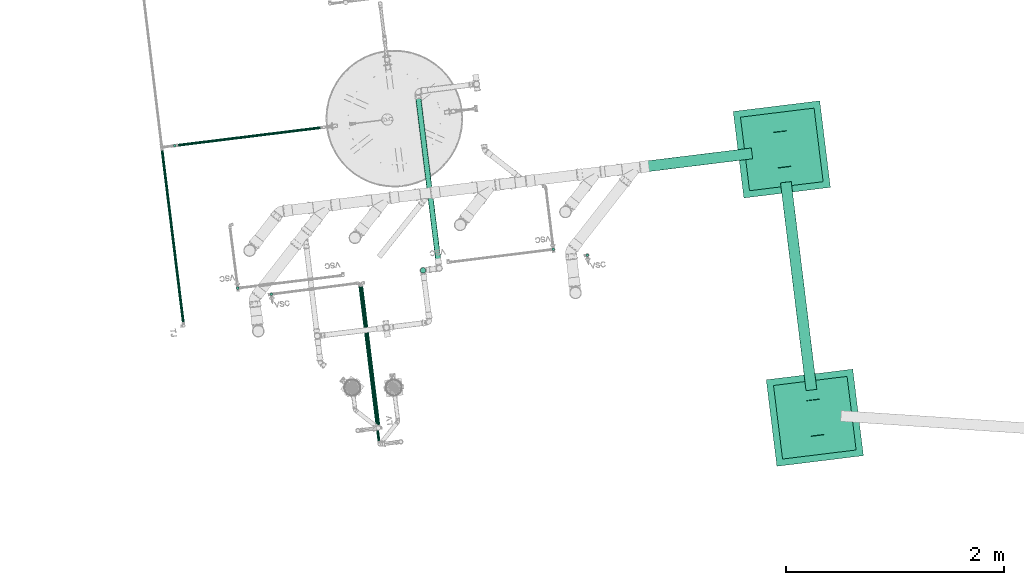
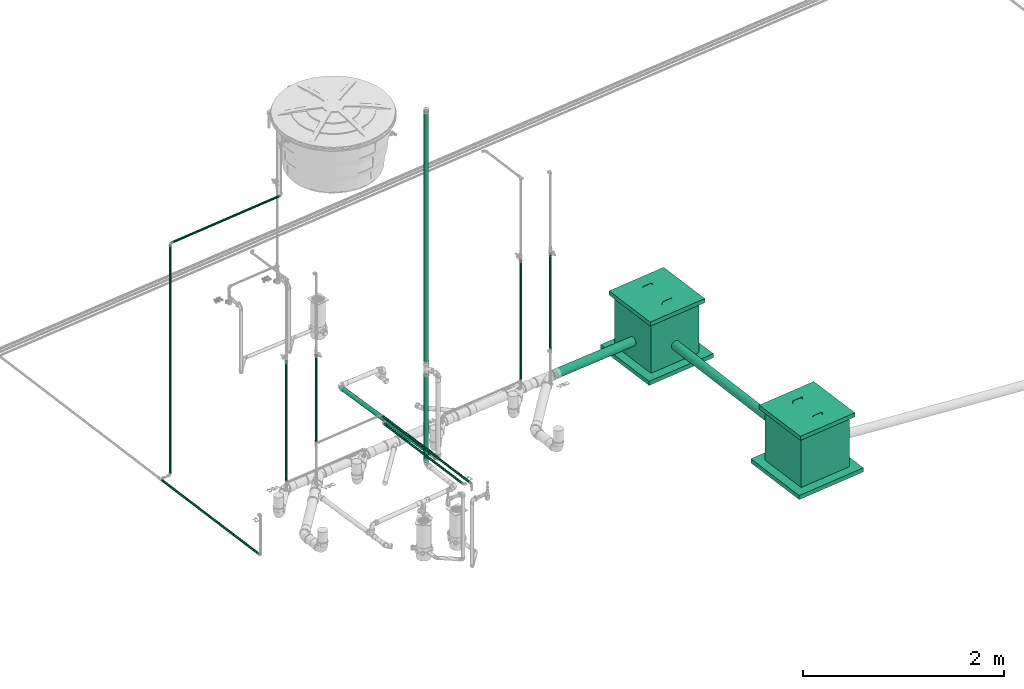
# One storey, part 3 of 97: 14 flow segments, 2 flow terminals.
"""IFC2X3 building model written with IfcOpenShell, lengths in centimetres."""

from ifc_helpers import new_model, entity, si_unit, converted_unit, derived_unit, direction, frame, frame_2d, origin, origin_2d_with_axis, place, context, subcontext, project, spatial, circle, extrude, faceted_brep, source, transform, mapped, material, material_list, type_object, type_shapes, element, save


model = new_model("IFC2X3")

# Units and contexts
model_context = context("Model", 3, precision=0.001, world=origin(), true_north=direction((6.12303176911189e-17, 1.0)))
body_context = subcontext(model_context, "Body", "Model", "MODEL_VIEW")
ifc_project = project(units=[si_unit("LENGTHUNIT", "METRE", prefix="CENTI"), si_unit("AREAUNIT", "SQUARE_METRE"), si_unit("VOLUMEUNIT", "CUBIC_METRE"), converted_unit("PLANEANGLEUNIT", "DEGREE", entity("IfcRatioMeasure", 0.0174532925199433), si_unit("PLANEANGLEUNIT", "RADIAN"), dimensions=[0, 0, 0, 0, 0, 0, 0]), si_unit("MASSUNIT", "GRAM", prefix="KILO"), derived_unit("MASSDENSITYUNIT", [(si_unit("MASSUNIT", "GRAM", prefix="KILO"), 1), (si_unit("LENGTHUNIT", "METRE"), -3)]), derived_unit("MOMENTOFINERTIAUNIT", [(si_unit("LENGTHUNIT", "METRE"), 4)]), si_unit("TIMEUNIT", "SECOND"), si_unit("FREQUENCYUNIT", "HERTZ"), si_unit("THERMODYNAMICTEMPERATUREUNIT", "DEGREE_CELSIUS"), derived_unit("THERMALTRANSMITTANCEUNIT", [(si_unit("MASSUNIT", "GRAM", prefix="KILO"), 1), (si_unit("THERMODYNAMICTEMPERATUREUNIT", "KELVIN"), -1), (si_unit("TIMEUNIT", "SECOND"), -3)]), derived_unit("VOLUMETRICFLOWRATEUNIT", [(si_unit("LENGTHUNIT", "METRE"), 3), (si_unit("TIMEUNIT", "SECOND"), -1)]), si_unit("ELECTRICCURRENTUNIT", "AMPERE"), si_unit("ELECTRICVOLTAGEUNIT", "VOLT"), si_unit("POWERUNIT", "WATT"), si_unit("FORCEUNIT", "NEWTON", prefix="KILO"), si_unit("ILLUMINANCEUNIT", "LUX"), si_unit("LUMINOUSFLUXUNIT", "LUMEN"), si_unit("LUMINOUSINTENSITYUNIT", "CANDELA"), derived_unit("USERDEFINED", [(si_unit("MASSUNIT", "GRAM", prefix="KILO"), -1), (si_unit("LENGTHUNIT", "METRE"), -2), (si_unit("TIMEUNIT", "SECOND"), 3), (si_unit("LUMINOUSFLUXUNIT", "LUMEN"), 1)]), derived_unit("LINEARVELOCITYUNIT", [(si_unit("LENGTHUNIT", "METRE"), 1), (si_unit("TIMEUNIT", "SECOND"), -1)]), si_unit("PRESSUREUNIT", "PASCAL"), derived_unit("USERDEFINED", [(si_unit("LENGTHUNIT", "METRE"), -2), (si_unit("MASSUNIT", "GRAM", prefix="KILO"), 1), (si_unit("TIMEUNIT", "SECOND"), -2)]), derived_unit("LINEARFORCEUNIT", [(si_unit("MASSUNIT", "GRAM", prefix="KILO"), 1), (si_unit("LENGTHUNIT", "METRE"), 1), (si_unit("TIMEUNIT", "SECOND"), -2), (si_unit("LENGTHUNIT", "METRE"), -1)]), derived_unit("PLANARFORCEUNIT", [(si_unit("MASSUNIT", "GRAM", prefix="KILO"), 1), (si_unit("LENGTHUNIT", "METRE"), 1), (si_unit("TIMEUNIT", "SECOND"), -2), (si_unit("LENGTHUNIT", "METRE"), -2)])], contexts=[model_context])

# Site, building, storey
site_placement = place(None, origin())
site = spatial("IfcSite", under=ifc_project, at=site_placement, Name="Default", CompositionType="ELEMENT")
building_placement = place(site_placement, origin())
building = spatial("IfcBuilding", under=site, at=building_placement, Name="HIDROSSANITÁRIO", CompositionType="ELEMENT")
storey_placement = place(building_placement, frame((0.0, 0.0, -260.0)))
storey = spatial("IfcBuildingStorey", under=building, at=storey_placement, Name="TÉRREO-HID", CompositionType="ELEMENT", Elevation=-260.0)

# Flow segments
pipe_segment_type_1 = type_object("IfcPipeSegmentType", Name="Tipos de tubos:Tubo Marrom - Água Fria - Soldável", PredefinedType="NOTDEFINED")
flow_segment_1_placement = place(storey_placement, origin())
element("IfcFlowSegment", 1, at=flow_segment_1_placement, inside=storey, type_object=pipe_segment_type_1, Name="Tipos de tubos:Tubo Marrom - Água Fria - Soldável", ObjectType="Tipos de tubos:Tubo Marrom - Água Fria - Soldável", context=body_context, shape_type="SweptSolid", body=[
    extrude(circle(Radius=1.25, at=frame_2d((-9.36630685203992e-43, 1.95846672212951e-13), x_axis=(1.0, 0.0))), frame((-1855.62086391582, 3014.8289807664, 261.388627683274), z_axis=(0.992511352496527, 0.122152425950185, 0.0), x_axis=(-0.122152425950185, 0.992511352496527, 0.0)), (0.0, 0.0, 1.0), 134.92),
])
flow_segment_2_placement = place(storey_placement, origin())
element("IfcFlowSegment", 2, at=flow_segment_2_placement, inside=storey, type_object=pipe_segment_type_1, Name="Tipos de tubos:Tubo Marrom - Água Fria - Soldável", ObjectType="Tipos de tubos:Tubo Marrom - Água Fria - Soldável", context=body_context, shape_type="SweptSolid", body=[
    extrude(circle(Radius=1.25, at=frame_2d((0.0, -4.33146851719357e-13), x_axis=(1.0, 0.0))), frame((-1857.14933139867, 3014.64086603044, -18.46)), (0.0, 0.0, 1.0), 278.308627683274),
])
flow_segment_3_placement = place(storey_placement, origin())
element("IfcFlowSegment", 3, at=flow_segment_3_placement, inside=storey, type_object=pipe_segment_type_1, Name="Tipos de tubos:Tubo Marrom - Água Fria - Soldável", ObjectType="Tipos de tubos:Tubo Marrom - Água Fria - Soldável", context=body_context, shape_type="SweptSolid", body=[
    extrude(circle(Radius=1.25, at=origin_2d_with_axis()), frame((-1509.71550067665, 2919.59112945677, 31.59), z_axis=(0.0, 0.0, 1.0), x_axis=(-1.0, 0.0, 0.0)), (0.0, 0.0, 1.0), 146.409999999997),
])
flow_segment_4_placement = place(storey_placement, origin())
element("IfcFlowSegment", 4, at=flow_segment_4_placement, inside=storey, type_object=pipe_segment_type_1, Name="Tipos de tubos:Tubo Marrom - Água Fria - Soldável", ObjectType="Tipos de tubos:Tubo Marrom - Água Fria - Soldável", context=body_context, shape_type="SweptSolid", body=[
    extrude(circle(Radius=1.25, at=origin_2d_with_axis()), frame((-1669.72265099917, 2757.23788957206, 60.0), z_axis=(-0.12219963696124, 0.992505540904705, 0.0), x_axis=(0.992505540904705, 0.12219963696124, 0.0)), (0.0, 0.0, 1.0), 130.78539637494),
])
flow_segment_5_placement = place(storey_placement, origin())
element("IfcFlowSegment", 5, at=flow_segment_5_placement, inside=storey, type_object=pipe_segment_type_1, Name="Tipos de tubos:Tubo Marrom - Água Fria - Soldável", ObjectType="Tipos de tubos:Tubo Marrom - Água Fria - Soldável", context=body_context, shape_type="SweptSolid", body=[
    extrude(circle(Radius=1.25, at=origin_2d_with_axis()), frame((-1768.33138926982, 2878.4050435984, 71.59)), (0.0, 0.0, 1.0), 106.41),
])
flow_segment_6_placement = place(storey_placement, origin())
element("IfcFlowSegment", 6, at=flow_segment_6_placement, inside=storey, type_object=pipe_segment_type_1, Name="Tipos de tubos:Tubo Marrom - Água Fria - Soldável", ObjectType="Tipos de tubos:Tubo Marrom - Água Fria - Soldável", context=body_context, shape_type="SweptSolid", body=[
    extrude(circle(Radius=1.25, at=origin_2d_with_axis()), frame((-1868.78252150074, 3011.60712502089, -20.0), z_axis=(0.1221524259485, -0.992511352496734, 0.0), x_axis=(-0.992511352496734, -0.1221524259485, 0.0)), (0.0, 0.0, 1.0), 161.870000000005),
])
flow_segment_7_placement = place(storey_placement, origin())
element("IfcFlowSegment", 7, at=flow_segment_7_placement, inside=storey, type_object=pipe_segment_type_1, Name="Tipos de tubos:Tubo Marrom - Água Fria - Soldável", ObjectType="Tipos de tubos:Tubo Marrom - Água Fria - Soldável", context=body_context, shape_type="SweptSolid", body=[
    extrude(circle(Radius=1.25, at=origin_2d_with_axis()), frame((-1478.52027011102, 2914.1004983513, 61.59)), (0.0, 0.0, 1.0), 116.41),
])
flow_segment_8_placement = place(storey_placement, origin())
element("IfcFlowSegment", 8, at=flow_segment_8_placement, inside=storey, type_object=pipe_segment_type_1, Name="Tipos de tubos:Tubo Marrom - Água Fria - Soldável", ObjectType="Tipos de tubos:Tubo Marrom - Água Fria - Soldável", context=body_context, shape_type="SweptSolid", body=[
    extrude(circle(Radius=1.25, at=frame_2d((0.0, 4.33146851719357e-13), x_axis=(1.0, 0.0))), frame((-1799.2260408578, 2883.95602249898, 31.59)), (0.0, 0.0, 1.0), 146.410000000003),
])
flow_segment_9_placement = place(storey_placement, origin())
element("IfcFlowSegment", 9, at=flow_segment_9_placement, inside=storey, type_object=pipe_segment_type_1, Name="Tipos de tubos:Tubo Marrom - Água Fria - Soldável", ObjectType="Tipos de tubos:Tubo Marrom - Água Fria - Soldável", context=body_context, shape_type="SweptSolid", body=[
    extrude(circle(Radius=1.25, at=frame_2d((-3.76395774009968e-42, 2.70716782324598e-13), x_axis=(1.0, 0.0))), frame((-1687.35206780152, 2887.0965775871, 70.0), z_axis=(0.122152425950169, -0.992511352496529, 0.0), x_axis=(0.992511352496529, 0.122152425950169, 0.0)), (0.0, 0.0, 1.0), 146.113682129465),
])
pipe_segment_type_2 = type_object("IfcPipeSegmentType", Name="Tipos de tubos:Tubo - Esgoto - Série Normal", PredefinedType="NOTDEFINED")
flow_segment_10_placement = place(storey_placement, origin())
element("IfcFlowSegment", 10, at=flow_segment_10_placement, inside=storey, type_object=pipe_segment_type_2, Name="Tipos de tubos:Tubo - Esgoto - Série Normal", ObjectType="Tipos de tubos:Tubo - Esgoto - Série Normal", context=body_context, shape_type="SweptSolid", body=[
    extrude(circle(Radius=2.5, at=origin_2d_with_axis()), frame((-1629.2281952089, 2900.22595257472, 105.78), z_axis=(0.0, 0.0, 1.0), x_axis=(-1.0, 0.0, 0.0)), (0.0, 0.0, 1.0), 306.147427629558),
])
flow_segment_11_placement = place(storey_placement, origin())
element("IfcFlowSegment", 11, at=flow_segment_11_placement, inside=storey, type_object=pipe_segment_type_2, Name="Tipos de tubos:Tubo - Esgoto - Série Normal", ObjectType="Tipos de tubos:Tubo - Esgoto - Série Normal", context=body_context, shape_type="SweptSolid", body=[
    extrude(circle(Radius=2.5, at=origin_2d_with_axis()), frame((-1614.71770808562, 2905.1229228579, -17.0622223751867), z_axis=(-0.122127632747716, 0.992309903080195, -0.0201468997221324), x_axis=(-0.992511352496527, -0.122152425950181, 0.0)), (0.0, 0.0, 1.0), 157.439610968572),
])
flow_segment_12_placement = place(storey_placement, origin())
element("IfcFlowSegment", 12, at=flow_segment_12_placement, inside=storey, type_object=pipe_segment_type_2, Name="Tipos de tubos:Tubo - Esgoto - Série Normal", ObjectType="Tipos de tubos:Tubo - Esgoto - Série Normal", context=body_context, shape_type="SweptSolid", body=[
    extrude(circle(Radius=5.0, at=origin_2d_with_axis()), frame((-1426.05433442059, 2995.3821976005, -36.5631975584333), z_axis=(0.992445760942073, 0.122276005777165, -0.00999949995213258), x_axis=(0.122282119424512, -0.992495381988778, 0.0)), (0.0, 0.0, 1.0), 99.2993765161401),
])
flow_segment_13_placement = place(storey_placement, origin())
element("IfcFlowSegment", 13, at=flow_segment_13_placement, inside=storey, type_object=pipe_segment_type_2, Name="Tipos de tubos:Tubo - Esgoto - Série Normal", ObjectType="Tipos de tubos:Tubo - Esgoto - Série Normal", context=body_context, shape_type="SweptSolid", body=[
    extrude(circle(Radius=2.5, at=origin_2d_with_axis()), frame((-1629.2281952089, 2900.22595257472, -13.9314800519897), z_axis=(0.0, 0.0, 1.0), x_axis=(-1.0, 0.0, 0.0)), (0.0, 0.0, 1.0), 107.65148005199),
])
flow_segment_14_placement = place(storey_placement, origin())
element("IfcFlowSegment", 14, at=flow_segment_14_placement, inside=storey, type_object=pipe_segment_type_2, Name="Tipos de tubos:Tubo - Esgoto - Série Normal", ObjectType="Tipos de tubos:Tubo - Esgoto - Série Normal", context=body_context, shape_type="SweptSolid", body=[
    extrude(circle(Radius=5.0, at=origin_2d_with_axis()), frame((-1272.97020784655, 2790.52558212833, -39.92), z_axis=(-0.122146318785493, 0.992461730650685, 0.00999950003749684), x_axis=(-0.992511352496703, -0.122152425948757, 0.0)), (0.0, 0.0, 1.0), 192.009599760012),
])

# Flow terminals
ifc_material_1 = material(Name="<Unnamed>")
ifc_material_2 = material(Name="Concrete, Sand/Cement Screed")
ifc_material_3 = material(Name="Brick, Common, Grey")
ifc_material_list_1 = material_list([ifc_material_1, ifc_material_2, ifc_material_3])
ifc_material_list_2 = material_list([ifc_material_1, ifc_material_2, ifc_material_3])
distribution_element_type = type_object("IfcDistributionElementType", Name="Caixa de Inspeção/Gordura:Alvenaria", material=ifc_material_list_2)
shared_shape = source(origin(), body_context, "Body", "Brep", [
    faceted_brep([(-5.60146522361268, 16.5924553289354, 3.71042168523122), (-5.40613785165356, 16.3971279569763, 3.71042168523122), (-5.60146522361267, 16.2018005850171, 3.71042168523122), (-5.79679259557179, 16.3971279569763, 3.71042168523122), (6.39853477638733, 16.2018005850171, 3.71042168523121), (6.20320740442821, 16.3971279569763, 3.71042168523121), (6.39853477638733, 16.5924553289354, 3.71042168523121), (6.59386214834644, 16.3971279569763, 3.71042168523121), (-5.40613785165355, 16.3971279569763, 5.27042602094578), (-5.57070403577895, 16.2042380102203, 5.71042174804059), (-5.79679259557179, 16.3971279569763, 5.27042593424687), (-5.40613785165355, 16.3971279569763, 7.71042168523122), (-5.60146522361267, 16.2018005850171, 7.71042168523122), (-5.40613785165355, 16.3971279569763, 6.1504173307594), (-5.79679259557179, 16.3971279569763, 7.71042168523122), (-5.60146522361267, 16.5924553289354, 7.71042168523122), (-5.63222641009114, 16.5900179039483, 5.71042169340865), (-5.68947233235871, 16.5044482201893, 7.71042168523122), (-5.25102598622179, 16.2195619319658, 8.35998244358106), (-5.37993713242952, 16.2298951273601, 8.48889359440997), (-4.60146522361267, 16.3971279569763, 8.90574905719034), (-4.60146522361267, 16.2018005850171, 8.71042168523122), (-5.17045469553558, 16.3971279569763, 8.27941115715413), (-4.60146522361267, 16.3971279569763, 8.5150943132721), (-5.44668931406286, 16.3971279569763, 8.55564577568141), (-5.36898819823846, 16.5727768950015, 8.47794465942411), (-5.21737432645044, 16.5627205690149, 8.36172681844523), (-4.60146522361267, 16.5924553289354, 8.71042168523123), (0.518543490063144, 16.3971279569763, 8.90574905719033), (1.73854147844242, 16.2018005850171, 8.71042168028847), (2.95853913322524, 16.3971279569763, 8.90574905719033), (-0.76461087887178, 16.2018577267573, 8.71514602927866), (-2.16146960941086, 16.3971279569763, 8.5150943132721), (0.278526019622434, 16.3971279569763, 8.5150943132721), (0.398534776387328, 16.3971279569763, 8.5150943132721), (-2.16146958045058, 16.3971279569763, 8.90574905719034), (5.39853477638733, 16.2018005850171, 8.71042168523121), (5.39853477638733, 16.3971279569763, 8.90574905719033), (2.95853916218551, 16.3971279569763, 8.5150943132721), (5.39853477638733, 16.3971279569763, 8.51509431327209), (0.398534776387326, 16.3971279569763, 8.90574905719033), (1.56168082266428, 16.5923981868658, 8.70569732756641), (-0.941471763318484, 16.5924553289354, 8.71042168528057), (5.39853477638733, 16.5924553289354, 8.71042168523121), (5.39853477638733, 16.5044482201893, 8.79842879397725), (6.04809553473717, 16.2195619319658, 8.35998244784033), (6.17700668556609, 16.2298951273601, 8.48889359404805), (6.59386214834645, 16.3971279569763, 7.71042168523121), (6.39853477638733, 16.2018005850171, 7.71042168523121), (5.96752424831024, 16.3971279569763, 8.27941115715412), (6.20320740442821, 16.3971279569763, 7.71042168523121), (6.24375886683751, 16.3971279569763, 8.5556457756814), (6.16605775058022, 16.5727768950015, 8.477944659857), (6.04983990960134, 16.5627205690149, 8.32633078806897), (6.39853477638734, 16.5924553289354, 7.71042168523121), (6.20320740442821, 16.3971279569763, 6.15041734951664), (6.36777358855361, 16.2042380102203, 5.71042162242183), (6.59386214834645, 16.3971279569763, 6.15041743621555), (6.20320740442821, 16.3971279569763, 5.27042603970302), (6.4292959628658, 16.5900179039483, 5.71042167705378)], [[[0, 1, 2, 3]], [[4, 5, 6, 7]], [[8, 9, 2]], [[2, 10, 3]], [[10, 2, 9]], [[11, 12, 9]], [[8, 2, 1]], [[9, 8, 13, 11]], [[9, 12, 14]], [[14, 10, 9]], [[13, 15, 11]], [[0, 10, 16]], [[14, 16, 10]], [[10, 0, 3]], [[16, 13, 8, 1]], [[13, 16, 15]], [[1, 0, 16]], [[16, 14, 17, 15]], [[12, 18, 19]], [[20, 19, 21]], [[14, 12, 19]], [[11, 22, 18]], [[23, 21, 18]], [[14, 19, 24]], [[24, 19, 20]], [[23, 18, 22]], [[19, 18, 21]], [[11, 18, 12]], [[17, 14, 24]], [[25, 26, 15]], [[25, 15, 17]], [[11, 15, 26]], [[25, 27, 26]], [[20, 25, 24]], [[20, 27, 25]], [[26, 22, 11]], [[22, 26, 23]], [[17, 24, 25]], [[23, 26, 27]], [[28, 29, 30]], [[31, 32, 33, 34]], [[35, 20, 21]], [[36, 37, 30]], [[29, 28, 31]], [[38, 39, 36]], [[21, 23, 32]], [[34, 29, 31]], [[32, 31, 21]], [[30, 29, 36]], [[34, 38, 29]], [[36, 29, 38]], [[31, 28, 40, 35]], [[31, 35, 21]], [[40, 41, 42]], [[43, 39, 38]], [[27, 42, 33, 32, 23]], [[27, 20, 35, 40, 42]], [[30, 37, 44, 43]], [[38, 41, 43]], [[30, 43, 41]], [[42, 41, 33]], [[41, 40, 28, 30]], [[41, 38, 34, 33]], [[36, 45, 46]], [[47, 46, 48]], [[37, 36, 46]], [[39, 49, 45]], [[50, 48, 45]], [[37, 46, 51]], [[51, 46, 47]], [[50, 45, 49]], [[46, 45, 48]], [[39, 45, 36]], [[44, 37, 51]], [[52, 53, 43]], [[52, 43, 44]], [[39, 43, 53]], [[52, 54, 53]], [[47, 52, 51]], [[47, 54, 52]], [[53, 49, 39]], [[49, 53, 50]], [[44, 51, 52]], [[50, 53, 54]], [[55, 56, 48]], [[48, 57, 47]], [[57, 48, 56]], [[5, 4, 56]], [[55, 48, 50]], [[56, 55, 58, 5]], [[56, 4, 7]], [[7, 57, 56]], [[58, 6, 5]], [[54, 57, 59]], [[7, 59, 57]], [[57, 54, 47]], [[59, 58, 55, 50]], [[58, 59, 6]], [[50, 54, 59]], [[7, 6, 59]]]),
    faceted_brep([(-5.60146522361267, -16.5924553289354, 3.71042168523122), (-5.79679259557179, -16.3971279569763, 3.71042168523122), (-5.60146522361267, -16.2018005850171, 3.71042168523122), (-5.40613785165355, -16.3971279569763, 3.71042168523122), (6.39853477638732, -16.2018005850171, 3.71042168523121), (6.59386214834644, -16.3971279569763, 3.71042168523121), (6.39853477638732, -16.5924553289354, 3.71042168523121), (6.20320740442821, -16.3971279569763, 3.71042168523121), (-5.79679259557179, -16.3971279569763, 6.15041737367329), (-5.60146522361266, -16.5924553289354, 7.71042168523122), (-5.68947233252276, -16.5044482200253, 7.71042168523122), (-5.79679259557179, -16.3971279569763, 7.71042168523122), (-5.40613785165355, -16.3971279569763, 5.27042602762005), (-5.5707040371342, -16.5900179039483, 5.71042169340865), (-5.40613785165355, -16.3971279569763, 7.71042168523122), (-5.79679259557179, -16.3971279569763, 5.27042602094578), (-5.51345811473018, -16.5044482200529, 7.71042168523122), (-5.63222641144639, -16.2042380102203, 5.71042174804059), (-5.60146522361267, -16.2018005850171, 7.71042168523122), (-5.37028554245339, -16.5521831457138, 8.52319636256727), (-5.44668931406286, -16.3971279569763, 8.55564577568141), (-5.17045469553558, -16.3971279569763, 8.27941115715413), (-4.60146522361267, -16.3971279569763, 8.5150943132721), (-4.60146522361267, -16.5044482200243, 8.62241457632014), (-4.60146522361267, -16.5924553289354, 8.71042168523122), (-4.60146522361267, -16.5044482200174, 8.79842879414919), (-5.27261908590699, -16.5857215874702, 8.3815755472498), (-4.60146522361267, -16.3971279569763, 8.90574905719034), (-5.23720687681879, -16.2298951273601, 8.34616333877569), (-4.60146522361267, -16.2018005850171, 8.71042168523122), (-5.36611802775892, -16.2195619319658, 8.4750744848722), (0.398534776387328, -16.3971279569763, 8.5150943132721), (1.56168082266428, -16.5923981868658, 8.71514604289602), (-0.941471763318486, -16.5924553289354, 8.71042168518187), (2.95853912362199, -16.3971279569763, 8.90574905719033), (5.39853477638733, -16.5924553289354, 8.71042168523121), (5.39853477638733, -16.5044482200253, 8.7984287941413), (5.39853477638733, -16.3971279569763, 8.90574905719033), (0.278526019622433, -16.3971279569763, 8.90574905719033), (-2.16146957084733, -16.3971279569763, 8.90574905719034), (-2.16146960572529, -16.3971279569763, 8.5150943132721), (2.95853915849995, -16.3971279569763, 8.51509431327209), (5.39853477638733, -16.3971279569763, 8.51509431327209), (5.39853477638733, -16.5044482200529, 8.62241457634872), (0.518543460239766, -16.3971279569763, 8.5150943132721), (0.398534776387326, -16.3971279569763, 8.90574905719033), (1.73854147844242, -16.2018005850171, 8.71042169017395), (-0.76461087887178, -16.2018577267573, 8.70569734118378), (5.39853477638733, -16.2018005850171, 8.71042168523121), (6.21130945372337, -16.5521831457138, 8.47924200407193), (6.24375886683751, -16.3971279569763, 8.5556457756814), (5.96752424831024, -16.3971279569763, 8.27941115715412), (6.20320740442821, -16.3971279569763, 7.71042168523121), (6.31052766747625, -16.5044482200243, 7.71042168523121), (6.39853477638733, -16.5924553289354, 7.71042168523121), (6.4865418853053, -16.5044482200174, 7.71042168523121), (6.06968863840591, -16.5857215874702, 8.38157554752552), (6.59386214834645, -16.3971279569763, 7.71042168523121), (6.03427642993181, -16.2298951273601, 8.34616333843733), (6.39853477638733, -16.2018005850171, 7.71042168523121), (6.16318757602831, -16.2195619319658, 8.47507448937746), (6.59386214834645, -16.3971279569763, 5.27042599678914), (6.20320740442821, -16.3971279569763, 6.15041726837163), (6.36777358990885, -16.5900179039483, 5.71042167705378), (6.59386214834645, -16.3971279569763, 6.15041734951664), (6.42929596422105, -16.2042380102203, 5.71042162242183)], [[[0, 1, 2, 3]], [[4, 5, 6, 7]], [[8, 9, 10, 11]], [[0, 12, 13]], [[14, 13, 12]], [[12, 0, 3]], [[13, 8, 15, 1]], [[8, 13, 9]], [[1, 0, 13]], [[13, 14, 16, 9]], [[15, 17, 2]], [[2, 12, 3]], [[12, 2, 17]], [[11, 18, 17]], [[15, 2, 1]], [[17, 15, 8, 11]], [[17, 18, 14]], [[14, 12, 17]], [[19, 10, 9]], [[10, 19, 20]], [[21, 22, 23]], [[24, 25, 19]], [[24, 26, 23]], [[24, 19, 26]], [[16, 26, 9]], [[20, 25, 27]], [[20, 11, 10]], [[23, 26, 21]], [[19, 25, 20]], [[14, 21, 16]], [[26, 19, 9]], [[26, 16, 21]], [[22, 28, 29]], [[18, 30, 28]], [[14, 28, 21]], [[14, 18, 28]], [[11, 20, 30]], [[27, 30, 20]], [[27, 29, 30]], [[11, 30, 18]], [[21, 28, 22]], [[28, 30, 29]], [[31, 32, 33]], [[34, 35, 36, 37]], [[24, 33, 38, 39, 27, 25]], [[40, 31, 33, 24, 23, 22]], [[41, 42, 43, 35]], [[34, 32, 35]], [[41, 35, 32]], [[33, 32, 38]], [[32, 31, 44, 41]], [[32, 34, 45, 38]], [[44, 46, 41]], [[47, 39, 38, 45]], [[40, 22, 29]], [[48, 42, 41]], [[46, 44, 47]], [[34, 37, 48]], [[29, 27, 39]], [[45, 46, 47]], [[39, 47, 29]], [[41, 46, 48]], [[45, 34, 46]], [[48, 46, 34]], [[47, 44, 31, 40]], [[47, 40, 29]], [[49, 36, 35]], [[36, 49, 50]], [[51, 52, 53]], [[54, 55, 49]], [[54, 56, 53]], [[54, 49, 56]], [[43, 56, 35]], [[50, 55, 57]], [[50, 37, 36]], [[53, 56, 51]], [[49, 55, 50]], [[42, 51, 43]], [[56, 49, 35]], [[56, 43, 51]], [[52, 58, 59]], [[48, 60, 58]], [[42, 58, 51]], [[42, 48, 58]], [[37, 50, 60]], [[57, 60, 50]], [[57, 59, 60]], [[37, 60, 48]], [[51, 58, 52]], [[58, 60, 59]], [[61, 6, 5]], [[54, 62, 63]], [[7, 63, 62]], [[62, 54, 53, 52]], [[63, 61, 64, 57]], [[61, 63, 6]], [[63, 57, 55, 54]], [[7, 6, 63]], [[64, 65, 59]], [[59, 62, 52]], [[62, 59, 65]], [[5, 4, 65]], [[64, 59, 57]], [[65, 64, 61, 5]], [[65, 4, 7]], [[7, 62, 65]]]),
    faceted_brep([(34.0, 34.0, 6.0), (-34.0, 34.0, 6.0), (-34.0, -34.0, 6.0), (34.0, -34.0, 6.0), (34.0, 34.0, 1.0), (34.0, -34.0, 1.0), (-34.0, -34.0, 1.0), (-34.0, 34.0, 1.0)], [[[0, 1, 2, 3]], [[4, 5, 6, 7]], [[1, 0, 4, 7]], [[2, 1, 7, 6]], [[3, 2, 6, 5]], [[0, 3, 5, 4]]]),
    faceted_brep([(40.0, 40.0, -60.0), (-40.0, 40.0, -60.0), (-40.0, -40.0, -60.0), (40.0, -40.0, -60.0), (40.0, 40.0, -65.0), (40.0, -40.0, -65.0), (-40.0, -40.0, -65.0), (-40.0, 40.0, -65.0)], [[[0, 1, 2, 3]], [[4, 5, 6, 7]], [[1, 0, 4, 7]], [[2, 1, 7, 6]], [[3, 2, 6, 5]], [[0, 3, 5, 4]]]),
    faceted_brep([(25.0, 25.0, 1.0), (25.0, -25.0, 1.0), (-25.0, -25.0, 1.0), (-25.0, 25.0, 1.0), (30.0, 30.0, 1.0), (-30.0, 30.0, 1.0), (-30.0, -30.0, 1.0), (30.0, -30.0, 1.0), (25.0, 25.0, -60.0), (-25.0, 25.0, -60.0), (-25.0, -25.0, -60.0), (25.0, -25.0, -60.0), (30.0, 30.0, -60.0), (30.0, -30.0, -60.0), (-30.0, -30.0, -60.0), (-30.0, 30.0, -60.0)], [[[0, 1, 2, 3], [4, 5, 6, 7]], [[8, 9, 10, 11], [12, 13, 14, 15]], [[1, 0, 8, 11]], [[2, 1, 11, 10]], [[3, 2, 10, 9]], [[0, 3, 9, 8]], [[5, 4, 12, 15]], [[6, 5, 15, 14]], [[7, 6, 14, 13]], [[4, 7, 13, 12]]], outer=[[False, True], [False, True], [True], [True], [True], [True], [True], [True], [True], [True]]),
])
type_shapes(distribution_element_type, [shared_shape])
flow_terminal_1_placement = place(storey_placement, frame((-1300.12750143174, 3011.18368185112, 0.0), z_axis=(0.0, 0.0, 1.0), x_axis=(0.992511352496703, 0.122152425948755, 0.0)))
element("IfcFlowTerminal", 15, at=flow_terminal_1_placement, inside=storey, type_object=distribution_element_type, material=ifc_material_list_1, Name="Caixa de Inspeção/Gordura:Alvenaria", ObjectType="Caixa de Inspeção/Gordura:Alvenaria", context=body_context, shape_type="MappedRepresentation", body=[
    mapped(shared_shape, transform((0.0, 0.0, 0.0), scale=1.0)),
])
ifc_material_list_3 = material_list([ifc_material_1, ifc_material_2, ifc_material_3])
flow_terminal_2_placement = place(storey_placement, frame((-1269.83369979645, 2765.04086643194, 0.0), z_axis=(0.0, 0.0, 1.0), x_axis=(0.992511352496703, 0.122152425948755, 0.0)))
element("IfcFlowTerminal", 16, at=flow_terminal_2_placement, inside=storey, type_object=distribution_element_type, material=ifc_material_list_3, Name="Caixa de Inspeção/Gordura:Alvenaria", ObjectType="Caixa de Inspeção/Gordura:Alvenaria", context=body_context, shape_type="MappedRepresentation", body=[
    mapped(shared_shape, transform((0.0, 0.0, 0.0), scale=1.0)),
])

save(model, "model.ifc")
